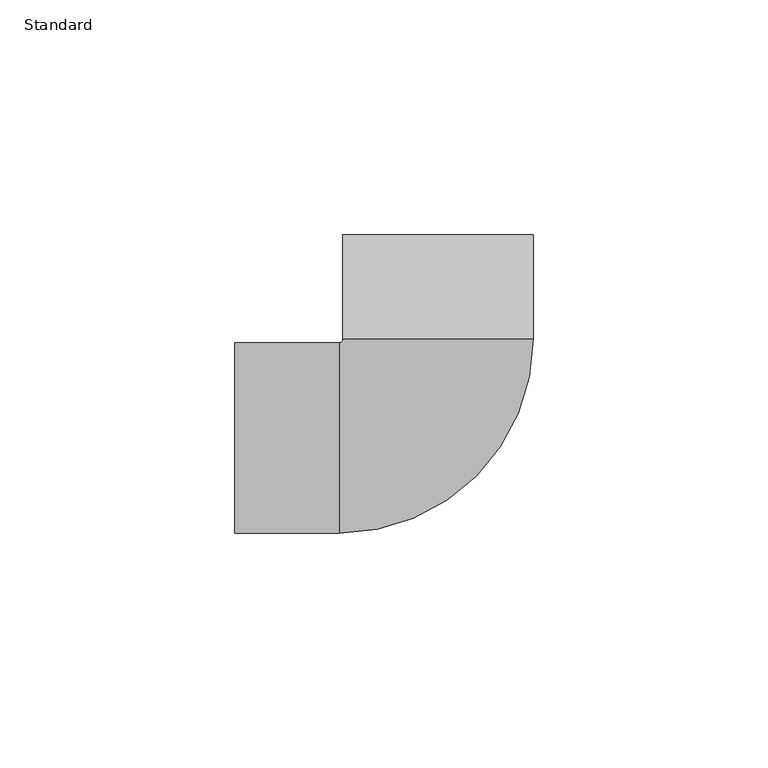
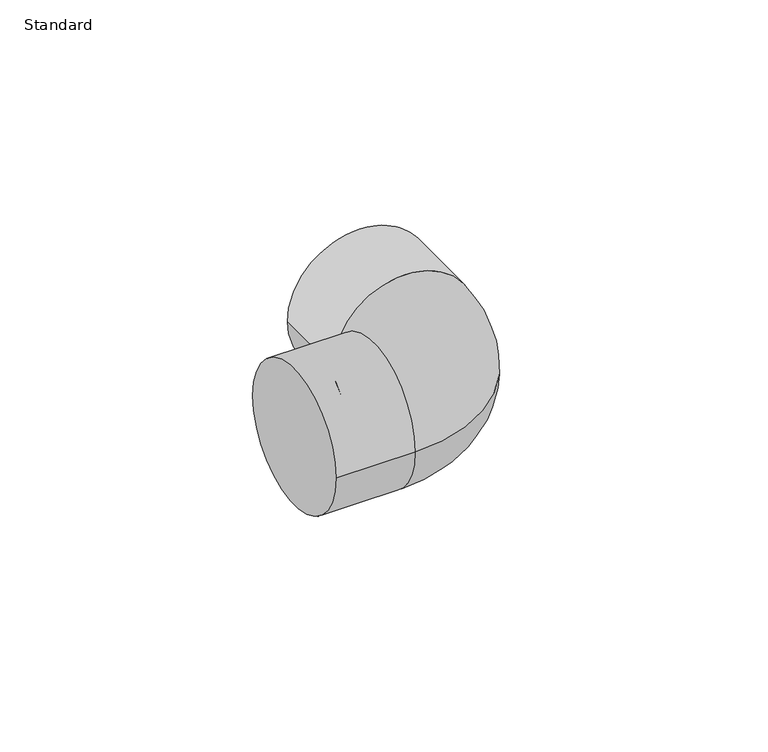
"""IFC4 building model written with IfcOpenShell, lengths in millimetres: pipe fitting geometry, M_Elbow - CPVC - Sch 40 : Standard."""

from ifc_helpers import new_model, si_unit, point, frame, origin, place, context, project, spatial, circle_curve, ellipse_curve, trimmed, source, transform, mapped, element, save
from ifc_brep_helpers import plane_surface, cylinder_surface, revolved_surface, advanced_brep


def standard_bfa7e4ca(model_context):
    return source(origin(), model_context, "Body", "AdvancedBrep", [
        advanced_brep(
        [(-43.2625464, -20.2438, 0.0), (-43.2625464, 20.2438, 0.0), (-21.0375464, -20.2438, 0.0), (-21.0375464, 20.2438, 0.0), (-20.2437964, 21.0375499, 0.0), (20.2438036, 21.037543, 0.0), (20.2438073, 43.262543, 0.0), (-20.2437927, 43.2625499, 0.0)],
        [
            (0, 1, circle_curve(frame((-43.2625464, 0.0, 0.0), z_axis=(-1.0, 0.0, 0.0), x_axis=(0.0, 1.0, 0.0)), 20.2438)),
            (1, 0, circle_curve(frame((-43.2625464, 0.0, 0.0), z_axis=(-1.0, 0.0, 0.0), x_axis=(0.0, 1.0, 0.0)), 20.2438)),
            (0, 2),
            (2, 3, circle_curve(frame((-21.0375464, 0.0, 0.0), z_axis=(-1.0, 0.0, 0.0), x_axis=(0.0, 1.0, 0.0)), 20.2438)),
            (3, 1),
            (3, 2, circle_curve(frame((-21.0375464, 0.0, 0.0), z_axis=(-1.0, 0.0, 0.0), x_axis=(0.0, 1.0, 0.0)), 20.2438)),
            (4, 3, circle_curve(frame((-21.0375464, 21.03755, 0.0), z_axis=(0.0, 0.0, -1.0), x_axis=(0.0, -1.0, 0.0)), 0.79375)),
            (2, 5, circle_curve(frame((-21.0375464, 21.03755, 0.0), z_axis=(0.0, 0.0, 1.0), x_axis=(0.0, -1.0, 0.0)), 41.28135)),
            (5, 4, circle_curve(frame((3.6e-06, 21.0375464, 0.0), z_axis=(-1.6883793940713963e-07, -0.9999999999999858, 0.0), x_axis=(-0.9999999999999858, 1.6883793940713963e-07, 0.0)), 20.2438)),
            (4, 5, circle_curve(frame((3.6e-06, 21.0375464, 0.0), z_axis=(-1.6883794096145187e-07, -0.9999999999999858, 0.0), x_axis=(-0.9999999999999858, 1.6883794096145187e-07, 0.0)), 20.2438)),
            (6, 7, circle_curve(frame((7.3e-06, 43.2625464, 0.0), z_axis=(1.6883793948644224e-07, 0.9999999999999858, 0.0), x_axis=(-0.9999999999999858, 1.6883793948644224e-07, 0.0)), 20.2438)),
            (7, 6, circle_curve(frame((7.3e-06, 43.2625464, 0.0), z_axis=(1.6883793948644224e-07, 0.9999999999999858, 0.0), x_axis=(-0.9999999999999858, 1.6883793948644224e-07, 0.0)), 20.2438)),
            (5, 6),
            (7, 4),
        ],
        [
            plane_surface(frame((-43.2625464, 0.0, 0.0), z_axis=(-1.0, 0.0, 0.0), x_axis=(0.0, 0.0, 1.0))),
            cylinder_surface(frame((-43.2625464, 0.0, 0.0), z_axis=(-1.0, 0.0, 0.0), x_axis=(0.0, 1.0, 0.0)), 20.2438),
            revolved_surface(trimmed(ellipse_curve(frame((-21.0375464, 0.0, 0.0), z_axis=(-1.0, 0.0, 0.0), x_axis=(0.0, 1.0, 0.0)), 20.2438, 20.2438), [point((-21.0375464, -20.2438, 0.0))], [point((-21.0375464, 20.2438, 0.0))], True, "CARTESIAN"), (-21.0375464, 21.03755, 0.0), (0.0, 0.0, 1.0)),
            revolved_surface(trimmed(ellipse_curve(frame((-21.0375464, 0.0, 0.0), z_axis=(-1.0, 0.0, 0.0), x_axis=(0.0, 1.0, 0.0)), 20.2438, 20.2438), [point((-21.0375464, 20.2438, 0.0))], [point((-21.0375464, -20.2438, 0.0))], True, "CARTESIAN"), (-21.0375464, 21.03755, 0.0), (0.0, 0.0, 1.0)),
            plane_surface(frame((7.3e-06, 43.2625464, 0.0), z_axis=(1.6883793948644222e-07, 0.9999999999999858, 0.0), x_axis=(0.0, 0.0, 1.0))),
            cylinder_surface(frame((3.6e-06, 21.0375464, 0.0), z_axis=(-1.6883793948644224e-07, -0.9999999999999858, 0.0), x_axis=(-0.9999999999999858, 1.6883793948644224e-07, 0.0)), 20.2438),
        ],
        [
            (0, [[1, 2]]),
            (1, [[-1, 3, 4, 5]]),
            (1, [[-2, -5, 6, -3]]),
            (2, [[7, -4, 8, 9]]),
            (3, [[-8, -6, -7, 10]]),
            (4, [[11, 12]]),
            (5, [[-9, 13, -12, 14]]),
            (5, [[-10, -14, -11, -13]]),
        ],
    ),
    ])


if __name__ == "__main__":
    model = new_model("IFC4")
    model_context = context("Model", 3, world=origin())
    ifc_project = project(units=[si_unit("LENGTHUNIT", "METRE", prefix="MILLI")], contexts=[model_context])
    site = spatial("IfcSite", under=ifc_project)
    building = spatial("IfcBuilding", under=site)
    placement = place(None, origin())
    standard_shape = standard_bfa7e4ca(model_context)
    element("IfcPipeFitting", 1, ObjectType="M_Elbow - CPVC - Sch 40 : Standard", at=placement, inside=building, context=model_context, shape_type="MappedRepresentation", body=[
        mapped(standard_shape, transform((0.0, 0.0, 0.0), x_axis=(1.0, 0.0, 0.0), y_axis=(0.0, 1.0, 0.0), z_axis=(0.0, 0.0, 1.0))),
    ])
    save(model, "model.ifc")
